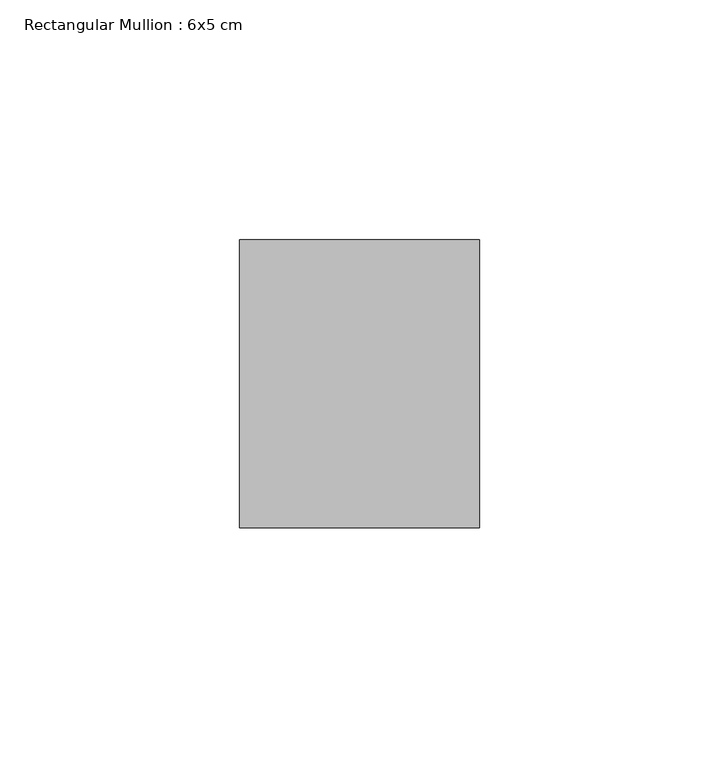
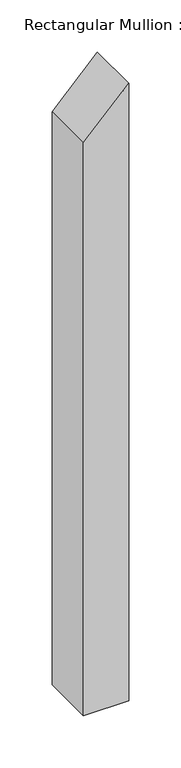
"""IFC4 building model written with IfcOpenShell, lengths in millimetres: member geometry, Rectangular Mullion : 6x5 cm."""

import ifcopenshell
import ifcopenshell.guid

model = None  # the IFC model being written
_history = None  # IfcOwnerHistory: only IFC2X3 demands one
_inside = {}  # id of a spatial element -> (the spatial element, [elements in it])
_under = {}  # id of a project, library or spatial element -> (it, [spatial elements below it])
_declared = {}  # id of a project -> (the project, [libraries it declares])
_typed = {}  # id of a type object -> (the type object, [elements of that type])
_made_of = {}  # id of a material, layer set ... -> (it, [elements and type objects made of it])


def new_model(schema):
    """Start an empty IFC model of exactly this schema.

    Asked for "IFC4X3", IfcOpenShell would pick the latest addendum, in which some entities
    have other attributes; the version numbers below select the first issue.
    IFC2X3 requires an IfcOwnerHistory on every rooted entity: one is made here for all.
    """
    global model, _history
    if schema == "IFC4X3":
        model = ifcopenshell.file(schema_version=(4, 3, 0, 0))
    else:
        model = ifcopenshell.file(schema=schema)
    _inside.clear()
    _under.clear()
    _declared.clear()
    _typed.clear()
    _made_of.clear()
    _history = None
    if model.schema == "IFC2X3":
        org = make("IfcOrganization", Name="unknown")
        user = make(
            "IfcPersonAndOrganization",
            ThePerson=make("IfcPerson", FamilyName="unknown"),
            TheOrganization=org,
        )
        app = make(
            "IfcApplication",
            ApplicationDeveloper=org,
            Version="unknown",
            ApplicationFullName="unknown",
            ApplicationIdentifier="unknown",
        )
        _history = make(
            "IfcOwnerHistory",
            OwningUser=user,
            OwningApplication=app,
            ChangeAction="ADDED",
            CreationDate=0,
        )
    return model


def make(cls, **values):
    """One entity of the class cls with the attributes given. An attribute that is None is left unset."""
    return model.create_entity(
        cls, **{name: value for name, value in values.items() if value is not None}
    )


def rooted(cls, **values):
    """An entity with a GlobalId (a new one), such as an element, a storey or a relation."""
    return make(cls, GlobalId=ifcopenshell.guid.new(), OwnerHistory=_history, **values)


def si_unit(unit_type, name, prefix=None):
    """IfcSIUnit, for example si_unit("LENGTHUNIT", "METRE", prefix="MILLI")."""
    return make("IfcSIUnit", UnitType=unit_type, Prefix=prefix, Name=name)


def assignment(units):
    """IfcUnitAssignment: the units of a project."""
    return None if units is None else make("IfcUnitAssignment", Units=units)


def point(xyz):
    """IfcCartesianPoint."""
    return None if xyz is None else make("IfcCartesianPoint", Coordinates=xyz)


def direction(xyz):
    """IfcDirection."""
    return None if xyz is None else make("IfcDirection", DirectionRatios=xyz)


def frame(location, z_axis=None, x_axis=None):
    """IfcAxis2Placement3D, a coordinate frame: its origin and axes. An axis left out is left unset."""
    return make(
        "IfcAxis2Placement3D",
        Location=point(location),
        Axis=direction(z_axis),
        RefDirection=direction(x_axis),
    )


def origin():
    """The frame at (0, 0, 0) with its axes left unset."""
    return frame((0.0, 0.0, 0.0))


def place(relative_to, where):
    """IfcLocalPlacement: puts the frame where relative to a parent placement (None: the world)."""
    return make(
        "IfcLocalPlacement", PlacementRelTo=relative_to, RelativePlacement=where
    )


def context(
    kind, dimensions, precision=None, world=None, true_north=None, identifier=None
):
    """IfcGeometricRepresentationContext, for example the 3D "Model" context."""
    return make(
        "IfcGeometricRepresentationContext",
        ContextIdentifier=identifier,
        ContextType=kind,
        CoordinateSpaceDimension=dimensions,
        Precision=precision,
        WorldCoordinateSystem=world,
        TrueNorth=true_north,
    )


def project(units=None, contexts=None):
    """IfcProject with its units and contexts."""
    return rooted(
        "IfcProject",
        Name="project",
        RepresentationContexts=contexts,
        UnitsInContext=assignment(units),
    )


def spatial(cls, under=None, at=None, **own):
    """A site, building, storey or space (cls), placed at a placement, below another one or the project."""
    s = rooted(cls, ObjectPlacement=at, **own)
    if under is not None:
        _under.setdefault(under.id(), (under, []))[1].append(s)
    return s


def polyline(points):
    """IfcPolyline through the points."""
    return make("IfcPolyline", Points=[point(p) for p in points])


def outline(outer, holes=None, kind="AREA"):
    """IfcArbitraryClosedProfileDef: a profile drawn as a closed curve; with holes, ...WithVoids."""
    if holes is None:
        return make("IfcArbitraryClosedProfileDef", ProfileType=kind, OuterCurve=outer)
    return make(
        "IfcArbitraryProfileDefWithVoids",
        ProfileType=kind,
        OuterCurve=outer,
        InnerCurves=holes,
    )


def extrude(swept, where, along, depth):
    """IfcExtrudedAreaSolid: the profile swept, set in the frame where, extruded along a direction by depth."""
    return make(
        "IfcExtrudedAreaSolid",
        SweptArea=swept,
        Position=where,
        ExtrudedDirection=direction(along),
        Depth=depth,
    )


def shape(context_of_items, identifier, shape_type, items):
    """IfcShapeRepresentation: the items that make up one representation, for example the "Body"."""
    return make(
        "IfcShapeRepresentation",
        ContextOfItems=context_of_items,
        RepresentationIdentifier=identifier,
        RepresentationType=shape_type,
        Items=items,
    )


def source(mapping_origin, context_of_items, identifier, shape_type, items):
    """IfcRepresentationMap: a shape defined once, which mapped items show again and again."""
    return make(
        "IfcRepresentationMap",
        MappingOrigin=mapping_origin,
        MappedRepresentation=shape(context_of_items, identifier, shape_type, items),
    )


def transform(
    local_origin,
    x_axis=None,
    y_axis=None,
    z_axis=None,
    scale=None,
    scale2=None,
    scale3=None,
    uniform=True,
):
    """IfcCartesianTransformationOperator3D, or its non-uniform kind. x_axis, y_axis, z_axis: its Axis1, 2, 3."""
    if uniform:
        return make(
            "IfcCartesianTransformationOperator3D",
            Axis1=direction(x_axis),
            Axis2=direction(y_axis),
            LocalOrigin=point(local_origin),
            Scale=scale,
            Axis3=direction(z_axis),
        )
    return make(
        "IfcCartesianTransformationOperator3DnonUniform",
        Axis1=direction(x_axis),
        Axis2=direction(y_axis),
        LocalOrigin=point(local_origin),
        Scale=scale,
        Axis3=direction(z_axis),
        Scale2=scale2,
        Scale3=scale3,
    )


def mapped(mapping_source, mapping_target):
    """IfcMappedItem: shows the shape of a source again, moved by a transform."""
    return make(
        "IfcMappedItem", MappingSource=mapping_source, MappingTarget=mapping_target
    )


def made_of(thing, what):
    """Note that an element or type object is made of a material, layer set ...; save() writes the relation."""
    if what is not None:
        _made_of.setdefault(what.id(), (what, []))[1].append(thing)
    return thing


def element(
    cls,
    number,
    at=None,
    inside=None,
    cuts=None,
    type_object=None,
    material=None,
    context=None,
    identifier="Body",
    shape_type=None,
    held_by="IfcProductDefinitionShape",
    body=None,
    shapes=None,
    **own,
):
    """One element of the class cls, such as IfcWall. Its Tag is "e" and its number.

    at: its placement. inside: the storey or other place that contains it. cuts: it is an
    opening in that element (IfcRelVoidsElement). A single representation is given by context,
    identifier, shape_type and body (its items); several are given by shapes. held_by: the class
    of the entity that holds the representations. save() writes the other relations.
    """
    e = rooted(cls, Tag="e%d" % number, ObjectPlacement=at, **own)
    if body is not None:
        shapes = [shape(context, identifier, shape_type, body)]
    if shapes is not None:
        e.Representation = make(held_by, Representations=shapes)
    if inside is not None:
        _inside.setdefault(inside.id(), (inside, []))[1].append(e)
    if cuts is not None:
        rooted(
            "IfcRelVoidsElement", RelatingBuildingElement=cuts, RelatedOpeningElement=e
        )
    if type_object is not None:
        _typed.setdefault(type_object.id(), (type_object, []))[1].append(e)
    return made_of(e, material)


def aggregate(whole, parts):
    """IfcRelAggregates: a whole, such as a stair, and the parts it consists of."""
    return rooted("IfcRelAggregates", RelatingObject=whole, RelatedObjects=parts)


def save(model, path):
    """Write the relations noted so far, then the file.

    IfcRelAggregates (storeys below a building ...), IfcRelContainedInSpatialStructure (elements
    in a storey), IfcRelDefinesByType, IfcRelAssociatesMaterial and IfcRelDeclares: one each for
    every whole, place, type object, material and project.
    """
    for whole, parts in _under.values():
        aggregate(whole, parts)
    for where, things in _inside.values():
        rooted(
            "IfcRelContainedInSpatialStructure",
            RelatedElements=things,
            RelatingStructure=where,
        )
    for kind, things in _typed.values():
        rooted("IfcRelDefinesByType", RelatedObjects=things, RelatingType=kind)
    for what, things in _made_of.values():
        rooted("IfcRelAssociatesMaterial", RelatedObjects=things, RelatingMaterial=what)
    for by, libraries in _declared.values():
        rooted("IfcRelDeclares", RelatingContext=by, RelatedDefinitions=libraries)
    model.write(path)


def rectangular_mullion_6x5_cm_8417e023(model_context):
    return source(origin(), model_context, "Body", "SweptSolid", [
        extrude(outline(polyline([(0.0, 0.0), (-52.2015325, -50.0), (-722.8416147, -50.0), (-722.8416147, 0.0), (0.0, 0.0)])), frame((0.0, 20.0, 0.0), z_axis=(0.0, 1.0, 0.0), x_axis=(0.0, 0.0, 1.0)), (0.0, 0.0, 1.0), 60.0),
    ])


if __name__ == "__main__":
    model = new_model("IFC4")
    model_context = context("Model", 3, world=origin())
    ifc_project = project(units=[si_unit("LENGTHUNIT", "METRE", prefix="MILLI")], contexts=[model_context])
    site = spatial("IfcSite", under=ifc_project)
    building = spatial("IfcBuilding", under=site)
    placement = place(None, origin())
    rectangular_mullion_6x5_cm_shape = rectangular_mullion_6x5_cm_8417e023(model_context)
    element("IfcMember", 1, ObjectType="Rectangular Mullion : 6x5 cm", at=placement, inside=building, context=model_context, shape_type="MappedRepresentation", body=[
        mapped(rectangular_mullion_6x5_cm_shape, transform((0.0, 0.0, 0.0), x_axis=(1.0, 0.0, 0.0), y_axis=(0.0, 1.0, 0.0), z_axis=(0.0, 0.0, 1.0))),
    ])
    save(model, "model.ifc")
